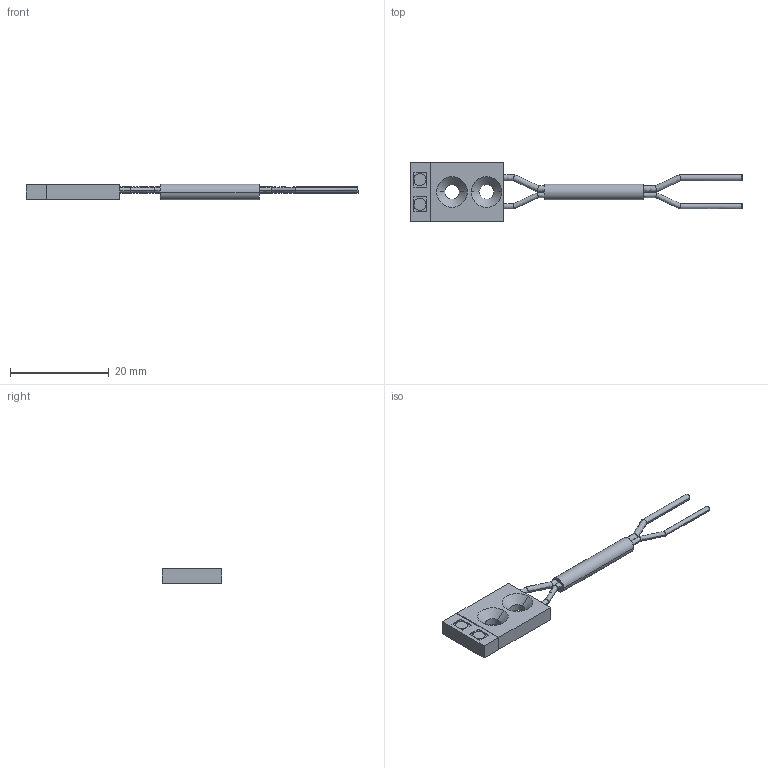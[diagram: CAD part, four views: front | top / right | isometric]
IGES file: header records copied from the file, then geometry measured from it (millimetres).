
Start section: SolidWorks IGES FILE using analytic representation for surfaces
Global section: file name: C:\Documents and Settings\yk0651\デスクトップ\3D_catalog_050904\0_IGES\FD-L44S.IGS; native system: SolidWorks 2004 by SolidWorks Corporation; preprocessor: Version 5.3; author: yk0651; date: 050904.185134; units: millimetre
Bounding box: 67.2 x 12 x 3.2 mm (x, y, z)
Volume: 826.2 mm3; surface area: 1090.7 mm2
Topology: 1 solids, 1 shells, 74 faces, 166 edges, 104 vertices
Faces by surface type: revolution 40, plane 34
